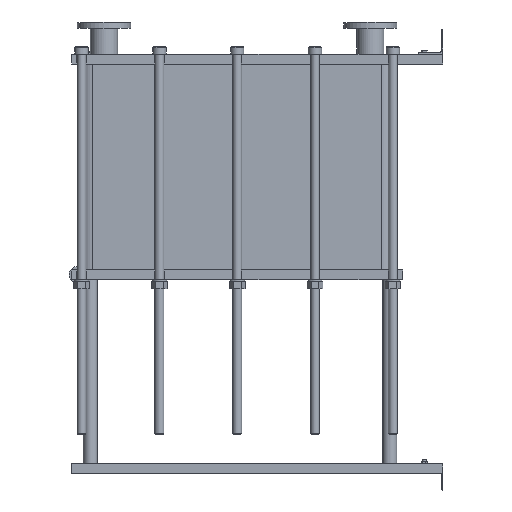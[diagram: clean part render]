
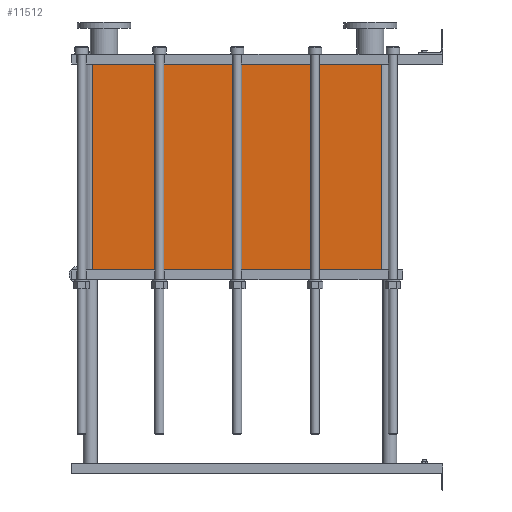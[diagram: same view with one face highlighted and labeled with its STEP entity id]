
A CAD part, left-side view. The second image highlights one B-rep face of the part: STEP entity #11512.
In plain terms, the highlighted planar face has unit normal (-1, 0, 0).
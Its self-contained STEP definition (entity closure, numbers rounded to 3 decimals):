
#1129=LINE('',#23232,#2102);
#1130=LINE('',#23236,#2103);
#1131=LINE('',#23238,#2104);
#1132=LINE('',#23239,#2105);
#2102=VECTOR('',#15887,10.);
#2103=VECTOR('',#15892,10.);
#2104=VECTOR('',#15893,10.);
#2105=VECTOR('',#15894,10.);
#3267=FACE_OUTER_BOUND('',#4093,.T.);
#4093=EDGE_LOOP('',(#10103,#10104,#10105,#10106));
#5642=VERTEX_POINT('',#23229);
#5643=VERTEX_POINT('',#23231);
#5644=VERTEX_POINT('',#23235);
#5645=VERTEX_POINT('',#23237);
#7159=EDGE_CURVE('',#5643,#5642,#1129,.T.);
#7161=EDGE_CURVE('',#5642,#5644,#1130,.T.);
#7162=EDGE_CURVE('',#5645,#5644,#1131,.T.);
#7163=EDGE_CURVE('',#5645,#5643,#1132,.T.);
#10103=ORIENTED_EDGE('',*,*,#7161,.T.);
#10104=ORIENTED_EDGE('',*,*,#7162,.F.);
#10105=ORIENTED_EDGE('',*,*,#7163,.T.);
#10106=ORIENTED_EDGE('',*,*,#7159,.T.);
#10857=PLANE('',#12751);
#11512=ADVANCED_FACE('',(#3267),#10857,.T.);
#12751=AXIS2_PLACEMENT_3D('',#23234,#15890,#15891);
#15887=DIRECTION('',(0.,0.,-1.));
#15890=DIRECTION('center_axis',(-1.,0.,0.));
#15891=DIRECTION('ref_axis',(0.,1.,0.));
#15892=DIRECTION('',(0.,-1.,0.));
#15893=DIRECTION('',(0.,0.,-1.));
#15894=DIRECTION('',(0.,1.,0.));
#23229=CARTESIAN_POINT('',(-200.,1414.,-831.45));
#23231=CARTESIAN_POINT('',(-200.,1414.,0.));
#23232=CARTESIAN_POINT('',(-200.,1414.,0.));
#23234=CARTESIAN_POINT('Origin',(-200.,248.,0.));
#23235=CARTESIAN_POINT('',(-200.,248.,-831.45));
#23236=CARTESIAN_POINT('',(-200.,539.5,-831.45));
#23237=CARTESIAN_POINT('',(-200.,248.,0.));
#23238=CARTESIAN_POINT('',(-200.,248.,0.));
#23239=CARTESIAN_POINT('',(-200.,248.,0.));
